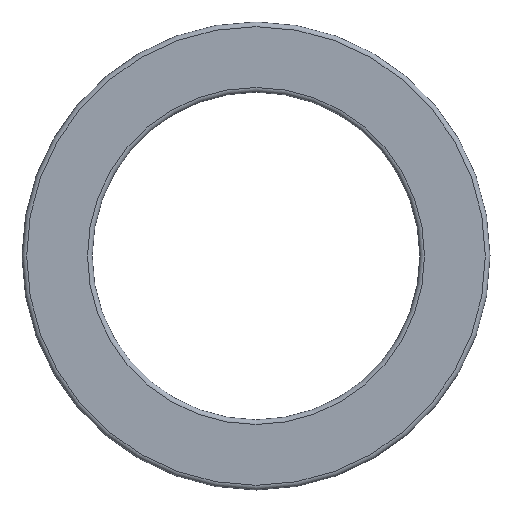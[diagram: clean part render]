
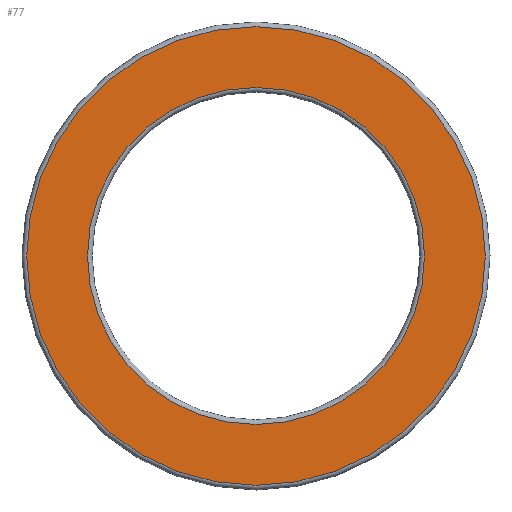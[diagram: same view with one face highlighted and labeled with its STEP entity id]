
A CAD part, front view. The second image highlights one B-rep face of the part: STEP entity #77.
In plain terms, the highlighted planar face has unit normal (0, -1, 0).
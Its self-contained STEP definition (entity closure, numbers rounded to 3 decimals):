
#15=PLANE('',#88);
#21=FACE_BOUND('',#36,.T.);
#27=FACE_OUTER_BOUND('',#35,.T.);
#35=EDGE_LOOP('',(#65));
#36=EDGE_LOOP('',(#66));
#45=CIRCLE('',#87,21.6);
#46=CIRCLE('',#89,29.4);
#51=VERTEX_POINT('',#128);
#52=VERTEX_POINT('',#131);
#57=EDGE_CURVE('',#51,#51,#45,.T.);
#58=EDGE_CURVE('',#52,#52,#46,.T.);
#65=ORIENTED_EDGE('',*,*,#58,.F.);
#66=ORIENTED_EDGE('',*,*,#57,.T.);
#77=ADVANCED_FACE('',(#27,#21),#15,.T.);
#87=AXIS2_PLACEMENT_3D('',#129,#105,#106);
#88=AXIS2_PLACEMENT_3D('',#130,#107,#108);
#89=AXIS2_PLACEMENT_3D('',#132,#109,#110);
#105=DIRECTION('center_axis',(0.,1.,0.));
#106=DIRECTION('ref_axis',(1.,0.,0.));
#107=DIRECTION('center_axis',(0.,-1.,0.));
#108=DIRECTION('ref_axis',(0.,0.,-1.));
#109=DIRECTION('center_axis',(0.,1.,0.));
#110=DIRECTION('ref_axis',(1.,0.,0.));
#128=CARTESIAN_POINT('',(-21.6,-6.5,0.));
#129=CARTESIAN_POINT('Origin',(0.,-6.5,0.));
#130=CARTESIAN_POINT('Origin',(-29.4,-6.5,0.));
#131=CARTESIAN_POINT('',(-29.4,-6.5,0.));
#132=CARTESIAN_POINT('Origin',(0.,-6.5,0.));
